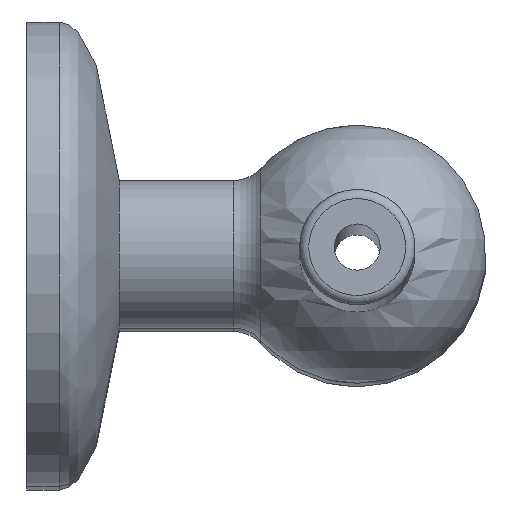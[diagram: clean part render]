
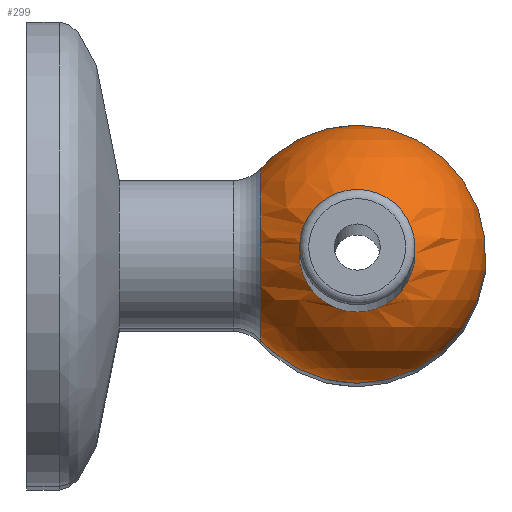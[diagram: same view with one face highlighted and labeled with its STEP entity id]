
A CAD part, top view. The second image highlights one B-rep face of the part: STEP entity #299.
In plain terms, the highlighted spherical face has radius 2.8 mm.
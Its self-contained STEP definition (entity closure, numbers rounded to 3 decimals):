
#20=SPHERICAL_SURFACE('',#354,2.8);
#24=FACE_BOUND('',#66,.T.);
#25=FACE_BOUND('',#67,.T.);
#45=FACE_OUTER_BOUND('',#65,.T.);
#65=EDGE_LOOP('',(#251,#252,#253,#254,#255,#256,#257));
#66=EDGE_LOOP('',(#258));
#67=EDGE_LOOP('',(#259));
#90=CIRCLE('',#325,1.25);
#91=CIRCLE('',#328,1.25);
#109=CIRCLE('',#355,1.867);
#110=CIRCLE('',#356,2.8);
#111=CIRCLE('',#357,1.867);
#112=CIRCLE('',#358,1.867);
#113=CIRCLE('',#359,2.8);
#123=VERTEX_POINT('',#493);
#124=VERTEX_POINT('',#498);
#141=VERTEX_POINT('',#573);
#142=VERTEX_POINT('',#574);
#143=VERTEX_POINT('',#576);
#144=VERTEX_POINT('',#578);
#145=VERTEX_POINT('',#581);
#157=EDGE_CURVE('',#123,#123,#90,.T.);
#158=EDGE_CURVE('',#124,#124,#91,.T.);
#181=EDGE_CURVE('',#141,#142,#109,.T.);
#182=EDGE_CURVE('',#141,#143,#110,.T.);
#183=EDGE_CURVE('',#144,#141,#111,.T.);
#184=EDGE_CURVE('',#142,#144,#112,.T.);
#185=EDGE_CURVE('',#145,#142,#113,.T.);
#251=ORIENTED_EDGE('',*,*,#181,.F.);
#252=ORIENTED_EDGE('',*,*,#182,.T.);
#253=ORIENTED_EDGE('',*,*,#182,.F.);
#254=ORIENTED_EDGE('',*,*,#183,.F.);
#255=ORIENTED_EDGE('',*,*,#184,.F.);
#256=ORIENTED_EDGE('',*,*,#185,.F.);
#257=ORIENTED_EDGE('',*,*,#185,.T.);
#258=ORIENTED_EDGE('',*,*,#157,.T.);
#259=ORIENTED_EDGE('',*,*,#158,.T.);
#299=ADVANCED_FACE('',(#45,#24,#25),#20,.T.);
#325=AXIS2_PLACEMENT_3D('',#495,#388,#389);
#328=AXIS2_PLACEMENT_3D('',#499,#394,#395);
#354=AXIS2_PLACEMENT_3D('',#572,#450,#451);
#355=AXIS2_PLACEMENT_3D('',#575,#452,#453);
#356=AXIS2_PLACEMENT_3D('',#577,#454,#455);
#357=AXIS2_PLACEMENT_3D('',#579,#456,#457);
#358=AXIS2_PLACEMENT_3D('',#580,#458,#459);
#359=AXIS2_PLACEMENT_3D('',#582,#460,#461);
#388=DIRECTION('center_axis',(0.,0.,
-1.));
#389=DIRECTION('ref_axis',(1.,0.,0.));
#394=DIRECTION('center_axis',(0.,0.,
1.));
#395=DIRECTION('ref_axis',(1.,0.,0.));
#450=DIRECTION('center_axis',(0.,-1.,0.));
#451=DIRECTION('ref_axis',(0.81,0.,0.587));
#452=DIRECTION('center_axis',(-1.,0.,0.));
#453=DIRECTION('ref_axis',(0.,-1.,0.));
#454=DIRECTION('center_axis',(0.587,0.,-0.81));
#455=DIRECTION('ref_axis',(-0.81,0.,-0.587));
#456=DIRECTION('center_axis',(-1.,0.,0.));
#457=DIRECTION('ref_axis',(0.,-1.,0.));
#458=DIRECTION('center_axis',(-1.,0.,0.));
#459=DIRECTION('ref_axis',(0.,-1.,0.));
#460=DIRECTION('center_axis',(0.587,0.,-0.81));
#461=DIRECTION('ref_axis',(-0.81,0.,-0.587));
#493=CARTESIAN_POINT('',(13685.966,10742.624,-849.8));
#495=CARTESIAN_POINT('Origin',(13687.216,10742.624,-849.8));
#498=CARTESIAN_POINT('',(13685.966,10742.624,-854.811));
#499=CARTESIAN_POINT('Origin',(13687.216,10742.624,-854.811));
#572=CARTESIAN_POINT('Origin',(13687.216,10742.624,-852.305));
#573=CARTESIAN_POINT('',(13685.129,10743.719,-853.817));
#574=CARTESIAN_POINT('',(13685.129,10741.529,-853.817));
#575=CARTESIAN_POINT('Origin',(13685.129,10742.624,-852.305));
#576=CARTESIAN_POINT('',(13687.216,10745.424,-852.305));
#577=CARTESIAN_POINT('Origin',(13687.216,10742.624,-852.305));
#578=CARTESIAN_POINT('',(13685.129,10740.757,-852.305));
#579=CARTESIAN_POINT('Origin',(13685.129,10742.624,-852.305));
#580=CARTESIAN_POINT('Origin',(13685.129,10742.624,-852.305));
#581=CARTESIAN_POINT('',(13687.216,10739.824,-852.305));
#582=CARTESIAN_POINT('Origin',(13687.216,10742.624,-852.305));
